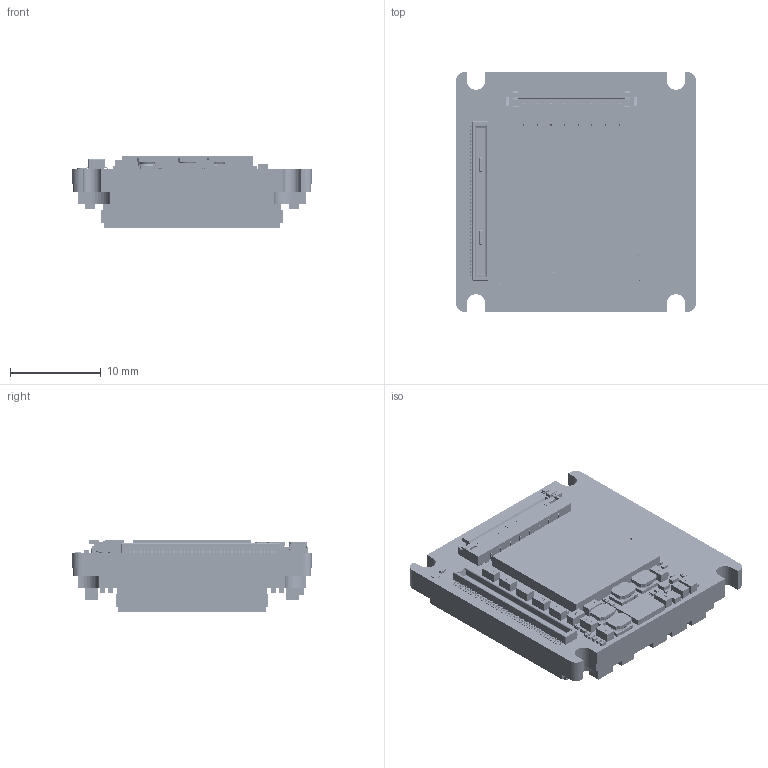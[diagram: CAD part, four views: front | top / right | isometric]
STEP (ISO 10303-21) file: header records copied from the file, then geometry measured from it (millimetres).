
FILE_DESCRIPTION (( 'STEP AP214' ), '1' );
FILE_NAME ('Alvium-CSI2-IMX990+991-VSWIR.STEP', '2022-11-18T07:57:05', ( '' ), ( '' ), 'SwSTEP 2.0', 'SolidWorks 2021', '' );
FILE_SCHEMA (( 'AUTOMOTIVE_DESIGN' ));
Length unit declared in the file: millimetre
Products named in the file (1): Alvium-CSI2-IMX990+991-VSWIR
Bounding box: 26.4 x 26.4 x 7.9 mm (x, y, z)
Volume: 3703.3 mm3; surface area: 4900.1 mm2
Topology: 174 solids, 174 shells, 11865 faces, 29869 edges, 19460 vertices
Faces by surface type: plane 6316, bspline 4463, cylinder 1038, torus 28, sphere 16, cone 4
Entity records: 740363 total; most frequent: CARTESIAN_POINT 353062, ORIENTED_EDGE 59706, DIRECTION 37777, EDGE_CURVE 29853, VERTEX_POINT 19460, LINE 18747, VECTOR 18747, EDGE_LOOP 13007
